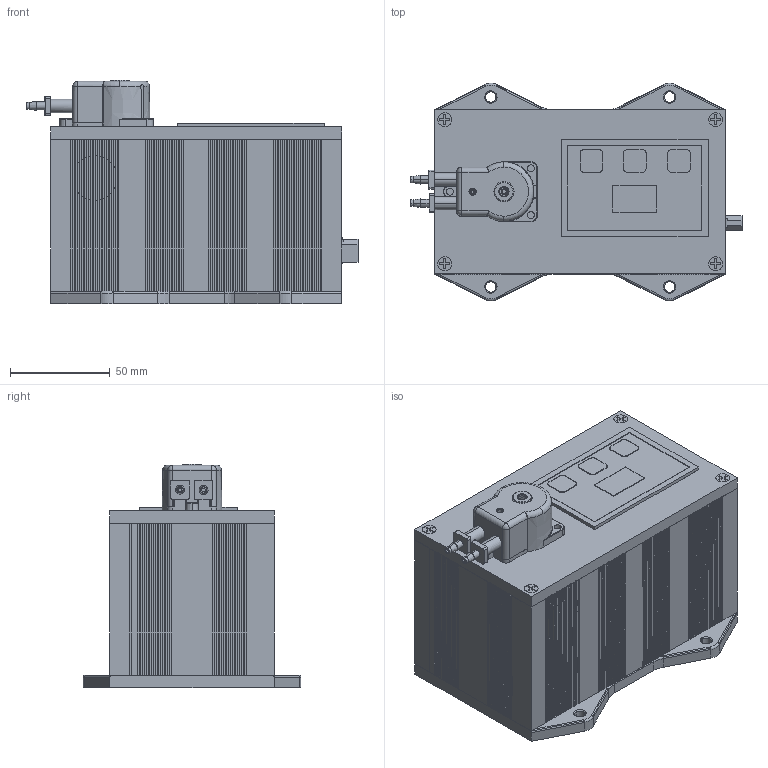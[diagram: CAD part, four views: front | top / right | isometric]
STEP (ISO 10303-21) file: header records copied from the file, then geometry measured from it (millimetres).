
FILE_DESCRIPTION(('STEP AP214'),'1');
FILE_NAME('GBX_Brushed_Buhler_VFC5_100_Head_STEP.stp','2025-06-07T20:18:51',('Scott Beresford'),('Simply Pumps'),'Spatial InterOp 3D',' ',' ');
FILE_SCHEMA(('AUTOMOTIVE_DESIGN { 1 0 10303 214 1 1 1 1 }'));
Length unit declared in the file: inch
Products named in the file (1): Part_5417652
Bounding box: 166.6 x 109.22 x 112.3 mm (x, y, z)
Volume: 257419.2 mm3; surface area: 166681.8 mm2
Topology: 18 solids, 18 shells, 2126 faces, 5843 edges, 3749 vertices
Faces by surface type: plane 1492, cylinder 311, cone 150, torus 98, bspline 65, sphere 10
Entity records: 88608 total; most frequent: CARTESIAN_POINT 17395, ORIENTED_EDGE 11654, DIRECTION 10660, EDGE_CURVE 5827, LINE 4462, VECTOR 4462, VERTEX_POINT 3745, AXIS2_PLACEMENT_3D 3099
